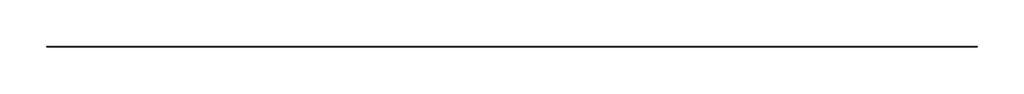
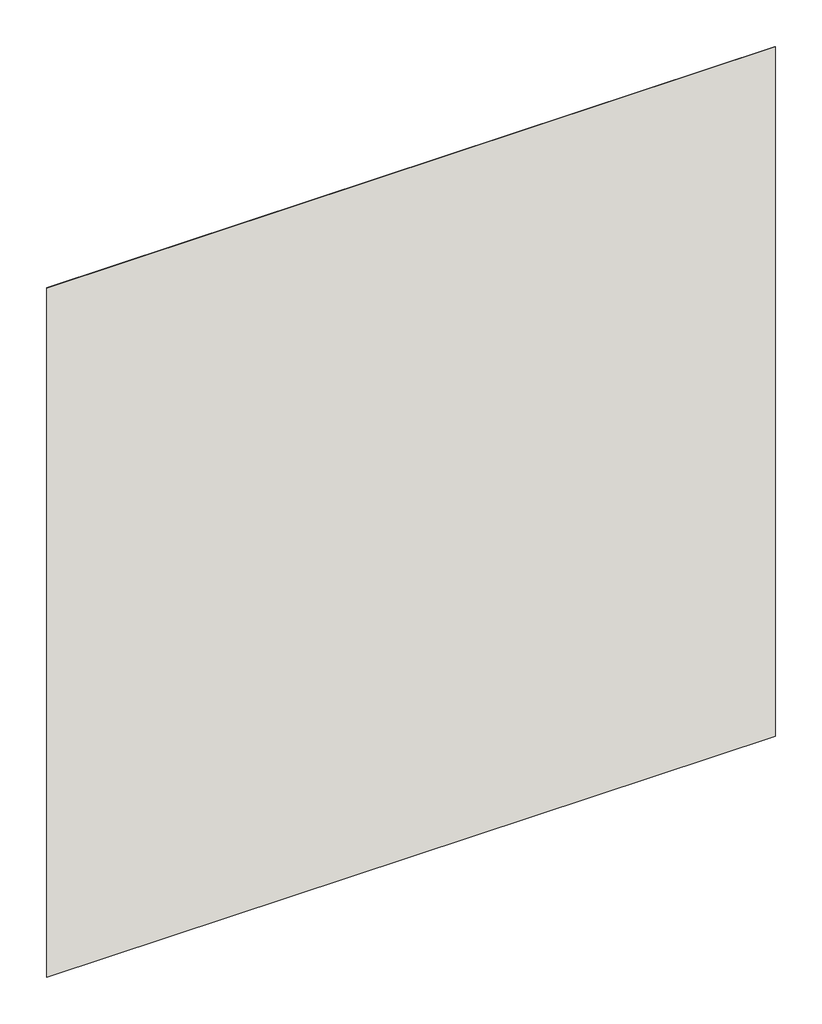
# One storey: 1 wall.
"""IFC4 building model written with IfcOpenShell, lengths in millimetres."""

from ifc_helpers import new_model, si_unit, origin, origin_with_axes, place, context, project, spatial, polyline, outline, extrude, element, save

model = new_model("IFC4")

# Units and contexts
model_context = context("Model", 3, world=origin())
ifc_project = project(units=[si_unit("LENGTHUNIT", "METRE", prefix="MILLI")], contexts=[model_context])

# Site, building, storey
site = spatial("IfcSite", under=ifc_project)
building = spatial("IfcBuilding", under=site)
storey = spatial("IfcBuildingStorey", under=building, Name="标高 1", Elevation=0.0)

# Wall
placement = place(None, origin())
element("IfcWall", 1, ObjectType="常规 - 200mm", at=placement, inside=storey, context=model_context, shape_type="SweptSolid", body=[
    extrude(outline(polyline([(-2501.889721, 767.1378302), (-3501.889721, 767.1378302), (-3501.889721, 768.1378302), (-2501.889721, 768.1378302), (-2501.889721, 767.1378302)])), origin_with_axes(), (0.0, 0.0, 1.0), 1000.0),
])

save(model, "model.ifc")
